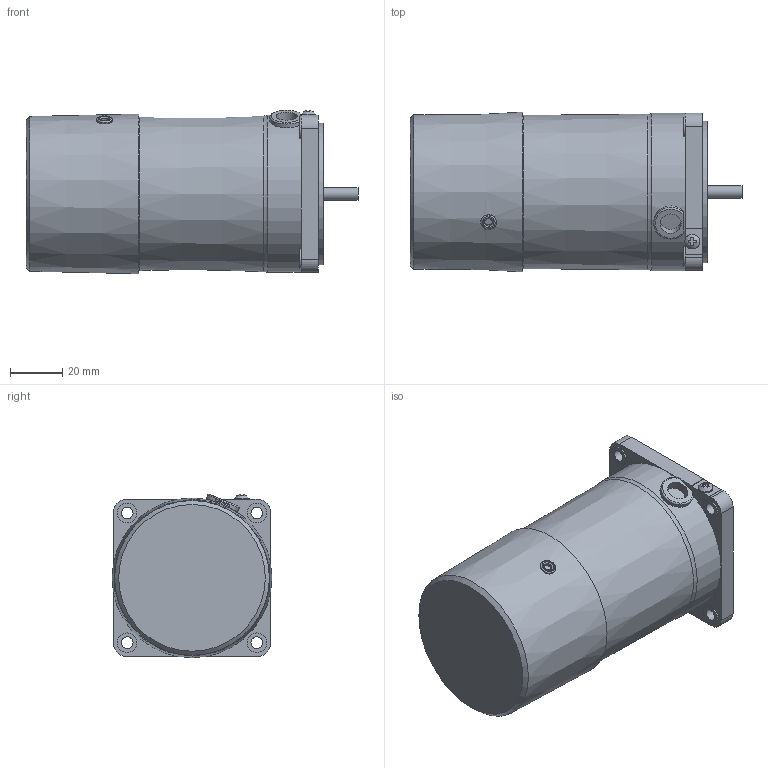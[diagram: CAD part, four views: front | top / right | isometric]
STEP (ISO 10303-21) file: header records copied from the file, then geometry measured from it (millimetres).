
FILE_DESCRIPTION(/* description */ (''),/* implementation_level */ '2;1');
FILE_NAME(/* name */ 'E:\도면작업\2016\0704) 미주향 SG 도면\3D MOTOR\ELECTROMAGNETIC BRAKE\SG6R06G_-E.stp',/* time_stamp */ '2017-03-21T13:50:19+09:00',/* author */ ('jy-jung'),/* organization */ (''),/* preprocessor_version */ 'ST-DEVELOPER v15.6',/* originating_system */ 'Autodesk Inventor 2015',/* authorisation */ '');
FILE_SCHEMA (('AUTOMOTIVE_DESIGN { 1 0 10303 214 3 1 1 }'));
Length unit declared in the file: millimetre
Products named in the file (1): 부품23
Bounding box: 126.7 x 60.94 x 62.38 mm (x, y, z)
Volume: 313598.3 mm3; surface area: 31030.4 mm2
Topology: 1 solids, 3 shells, 112 faces, 282 edges, 185 vertices
Faces by surface type: plane 66, cylinder 37, torus 4, cone 4, bspline 1
Full cylindrical faces by diameter (mm): 3.1 x1, 4.5 x4, 4.6 x1, 4.76 x1, 5 x1, 5.6 x1, 6 x1, 7.5 x4, 8 x1, 10.1 x1, 25 x1, 54 x1, 58.5 x1, 60 x1
Entity records: 3600 total; most frequent: CARTESIAN_POINT 829, DIRECTION 538, ORIENTED_EDGE 498, EDGE_CURVE 249, AXIS2_PLACEMENT_3D 204, VERTEX_POINT 178, EDGE_LOOP 163, LINE 130
